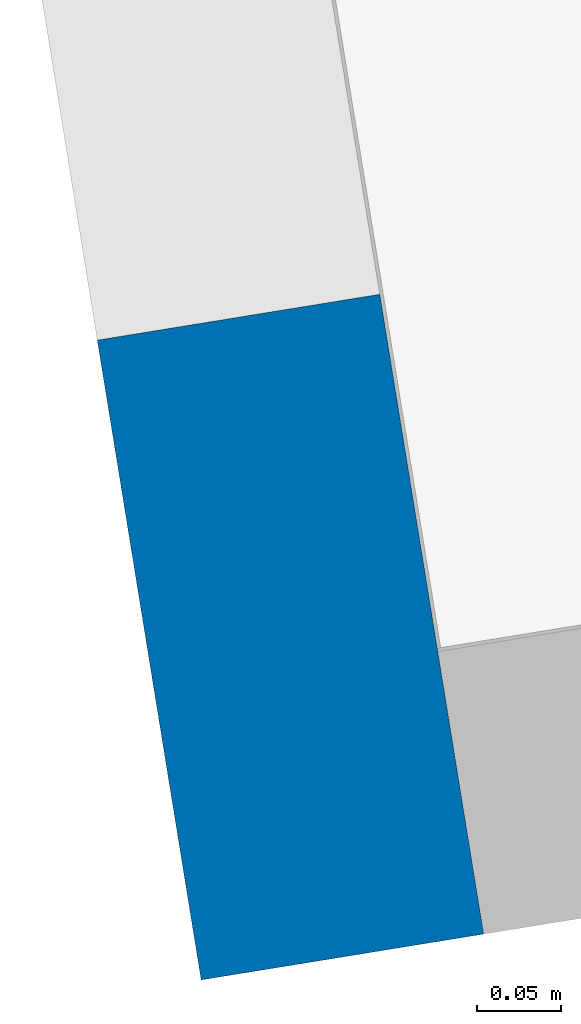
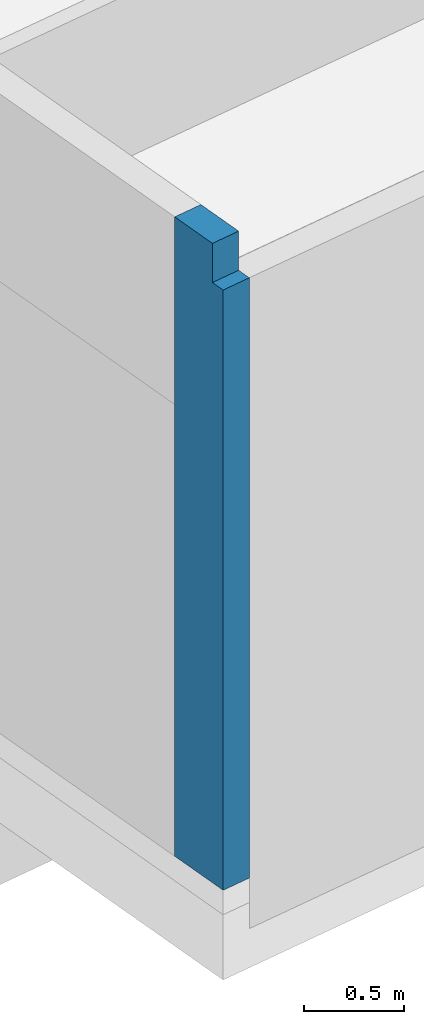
# One storey, part 24 of 38: 1 wall.
"""IFC2X3 building model written with IfcOpenShell, lengths in millimetres."""

from ifc_helpers import new_model, entity, si_unit, converted_unit, derived_unit, direction, frame, origin, origin_with_axes, place, context, subcontext, project, spatial, faceted_brep, material, layer, layer_set, type_object, element, save


model = new_model("IFC2X3")

# Units and contexts
model_context = context("Model", 3, precision=0.01, world=origin(), true_north=direction((6.12323399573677e-17, 1.0)))
plan_context = context("Plan", 3, precision=1e-05, world=origin_with_axes())
body_context = subcontext(model_context, "Body", "Model", "MODEL_VIEW")
ifc_project = project(units=[converted_unit("PLANEANGLEUNIT", "DEGREE", entity("IfcPositiveLengthMeasure", 0.0174532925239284), si_unit("PLANEANGLEUNIT", "RADIAN"), dimensions=[0, 0, 0, 0, 0, 0, 0]), si_unit("AREAUNIT", "SQUARE_METRE"), si_unit("LENGTHUNIT", "METRE", prefix="MILLI"), si_unit("MASSUNIT", "GRAM", prefix="KILO"), si_unit("POWERUNIT", "WATT"), si_unit("PRESSUREUNIT", "PASCAL", prefix="KILO"), si_unit("FORCEUNIT", "NEWTON", prefix="KILO"), si_unit("ELECTRICVOLTAGEUNIT", "VOLT"), si_unit("ELECTRICCURRENTUNIT", "AMPERE"), si_unit("THERMODYNAMICTEMPERATUREUNIT", "DEGREE_CELSIUS"), si_unit("TIMEUNIT", "SECOND"), si_unit("VOLUMEUNIT", "CUBIC_METRE"), derived_unit("LINEARVELOCITYUNIT", [(si_unit("LENGTHUNIT", "METRE"), 1), (si_unit("TIMEUNIT", "SECOND"), -1)]), derived_unit("VOLUMETRICFLOWRATEUNIT", [(si_unit("VOLUMEUNIT", "CUBIC_METRE"), 1), (si_unit("TIMEUNIT", "SECOND"), -1)]), derived_unit("THERMALTRANSMITTANCEUNIT", [(si_unit("POWERUNIT", "WATT"), 1), (si_unit("THERMODYNAMICTEMPERATUREUNIT", "KELVIN"), -1), (si_unit("AREAUNIT", "SQUARE_METRE"), -1)]), derived_unit("SOUNDPRESSUREUNIT", [(si_unit("PRESSUREUNIT", "PASCAL"), 1)])], contexts=[model_context, plan_context])

# Site, building, storey
site_placement = place(None, frame((-0.00071070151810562, 0.00438415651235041, 0.0), z_axis=(0.0, 0.0, 1.0), x_axis=(-0.160236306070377, 0.987078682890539, 0.0)))
site = spatial("IfcSite", under=ifc_project, at=site_placement, Name="Default", CompositionType="ELEMENT")
building_placement = place(site_placement, origin_with_axes())
building = spatial("IfcBuilding", under=site, at=building_placement, Name="TOO", CompositionType="ELEMENT")
storey_placement = place(building_placement, frame((0.0, 0.0, 50999.9999999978), z_axis=(0.0, 0.0, 1.0), x_axis=(1.0, 0.0, 0.0)))
storey = spatial("IfcBuildingStorey", under=building, at=storey_placement, Name="Nivå D-H01", CompositionType="ELEMENT", Elevation=50999.9999999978)

# Wall
ifc_material_1 = material(Name="A240 - Gipsplate")
ifc_layer_1 = layer(ifc_material_1, 12.5)
ifc_layer_2 = layer(ifc_material_1, 12.5)
ifc_material_2 = material(Name="A200 - Isolasjon - Rock Wool")
ifc_layer_3 = layer(ifc_material_2, 120.0)
ifc_layer_4 = layer(ifc_material_1, 12.5)
ifc_layer_5 = layer(ifc_material_1, 12.5)
ifc_layer_set = layer_set([ifc_layer_1, ifc_layer_2, ifc_layer_3, ifc_layer_4, ifc_layer_5], Name="Basic Wall:A242 - GG120/100GG")
wall_type = type_object("IfcWallType", Name="Basic Wall:A242 - GG120/100GG", PredefinedType="STANDARD", material=ifc_layer_set)
wall_placement = place(storey_placement, frame((769067.619644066, -588977.48173883, -70.0), z_axis=(0.0, 0.0, 1.0), x_axis=(-1.0, 0.0, 0.0)))
element("IfcWall", 1, at=wall_placement, inside=storey, type_object=wall_type, Name="Basic Wall:A242 - GG120/100GG", ObjectType="Basic Wall:A242 - GG120/100GG", context=body_context, shape_type="Brep", body=[
    faceted_brep([(0.0, -85.0, 3920.00000000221), (0.0, -85.0, 0.0), (385.0, -85.0, 0.0), (385.0, -85.0, 3680.0000000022), (300.0, -85.0, 3680.0000000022), (300.0, -85.0, 3920.00000000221), (0.0, 85.0, 0.0), (0.0, 85.0, 3920.00000000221), (300.0, 85.0, 3920.00000000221), (300.0, 85.0, 3680.0000000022), (385.0, 85.0, 3680.0000000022), (385.0, 85.0, 0.0)], [[[0, 1, 2, 3, 4, 5]], [[6, 7, 8, 9, 10, 11]], [[2, 1, 6, 11]], [[0, 5, 8, 7]], [[5, 4, 9, 8]], [[3, 2, 11, 10]], [[0, 7, 6, 1]], [[9, 4, 3, 10]]]),
])

save(model, "model.ifc")
